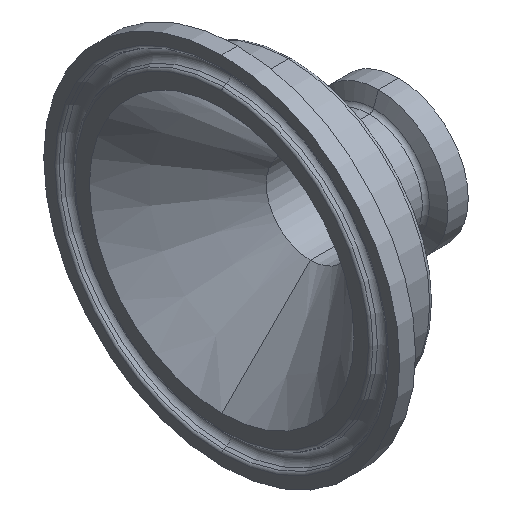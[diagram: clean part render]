
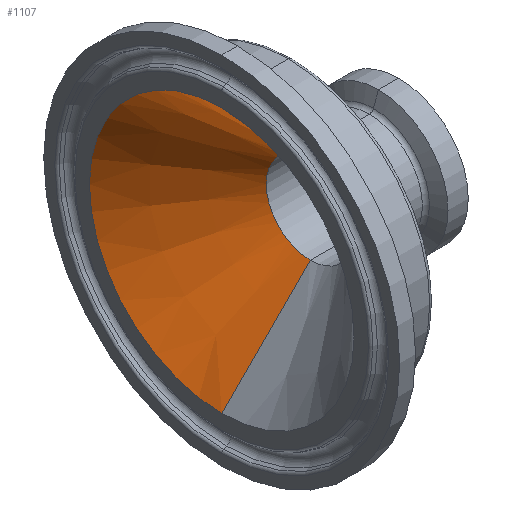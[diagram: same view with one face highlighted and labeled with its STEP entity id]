
A CAD part, isometric view. The second image highlights one B-rep face of the part: STEP entity #1107.
In plain terms, the highlighted conical face has half-angle 45 degrees and reference radius 23.749 mm.
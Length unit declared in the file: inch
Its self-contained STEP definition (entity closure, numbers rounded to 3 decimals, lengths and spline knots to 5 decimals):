
#10 = CONICAL_SURFACE ( 'NONE', #887, 0.935, 0.785 ) ;
#30 = CARTESIAN_POINT ( 'NONE',  ( 0., 0., -0.935 ) ) ;
#41 = CARTESIAN_POINT ( 'NONE',  ( 0., 0., -0.935 ) ) ;
#44 = ORIENTED_EDGE ( 'NONE', *, *, #810, .T. ) ;
#170 = DIRECTION ( 'NONE',  ( 0., 0., 1. ) ) ;
#252 = FACE_OUTER_BOUND ( 'NONE', #1041, .T. ) ;
#253 = VERTEX_POINT ( 'NONE', #1076 ) ;
#293 = LINE ( 'NONE', #498, #1045 ) ;
#349 = ORIENTED_EDGE ( 'NONE', *, *, #822, .F. ) ;
#356 = VERTEX_POINT ( 'NONE', #692 ) ;
#453 = DIRECTION ( 'NONE',  ( -0.707, 0., -0.707 ) ) ;
#478 = VECTOR ( 'NONE', #453, 39.37008 ) ;
#498 = CARTESIAN_POINT ( 'NONE',  ( 0., 0., 0.935 ) ) ;
#552 = LINE ( 'NONE', #41, #478 ) ;
#564 = CIRCLE ( 'NONE', #737, 0.935 ) ;
#582 = AXIS2_PLACEMENT_3D ( 'NONE', #721, #821, #170 ) ;
#614 = DIRECTION ( 'NONE',  ( 0., 0., 1. ) ) ;
#677 = EDGE_CURVE ( 'NONE', #356, #903, #552, .T. ) ;
#692 = CARTESIAN_POINT ( 'NONE',  ( 0.625, 0., -0.31 ) ) ;
#721 = CARTESIAN_POINT ( 'NONE',  ( 0.625, 0., 0. ) ) ;
#737 = AXIS2_PLACEMENT_3D ( 'NONE', #790, #805, #614 ) ;
#780 = CARTESIAN_POINT ( 'NONE',  ( 0., 0., 0. ) ) ;
#790 = CARTESIAN_POINT ( 'NONE',  ( 0., 0., 0. ) ) ;
#805 = DIRECTION ( 'NONE',  ( -1., 0., 0. ) ) ;
#808 = CIRCLE ( 'NONE', #582, 0.31 ) ;
#810 = EDGE_CURVE ( 'NONE', #253, #1135, #293, .T. ) ;
#821 = DIRECTION ( 'NONE',  ( -1., 0., 0. ) ) ;
#822 = EDGE_CURVE ( 'NONE', #253, #356, #808, .T. ) ;
#840 = ORIENTED_EDGE ( 'NONE', *, *, #677, .F. ) ;
#862 = DIRECTION ( 'NONE',  ( -1., 0., 0. ) ) ;
#887 = AXIS2_PLACEMENT_3D ( 'NONE', #780, #862, #1168 ) ;
#903 = VERTEX_POINT ( 'NONE', #30 ) ;
#979 = CARTESIAN_POINT ( 'NONE',  ( 0., 0., 0.935 ) ) ;
#1025 = DIRECTION ( 'NONE',  ( -0.707, 0., 0.707 ) ) ;
#1041 = EDGE_LOOP ( 'NONE', ( #840, #349, #44, #1330 ) ) ;
#1045 = VECTOR ( 'NONE', #1025, 39.37008 ) ;
#1076 = CARTESIAN_POINT ( 'NONE',  ( 0.625, 0., 0.31 ) ) ;
#1107 = ADVANCED_FACE ( 'NONE', ( #252 ), #10, .F. ) ;
#1135 = VERTEX_POINT ( 'NONE', #979 ) ;
#1168 = DIRECTION ( 'NONE',  ( 0., 0., 1. ) ) ;
#1171 = EDGE_CURVE ( 'NONE', #1135, #903, #564, .T. ) ;
#1330 = ORIENTED_EDGE ( 'NONE', *, *, #1171, .T. ) ;
